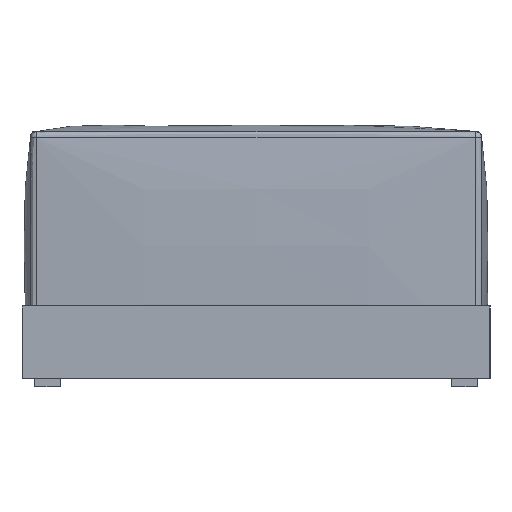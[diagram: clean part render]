
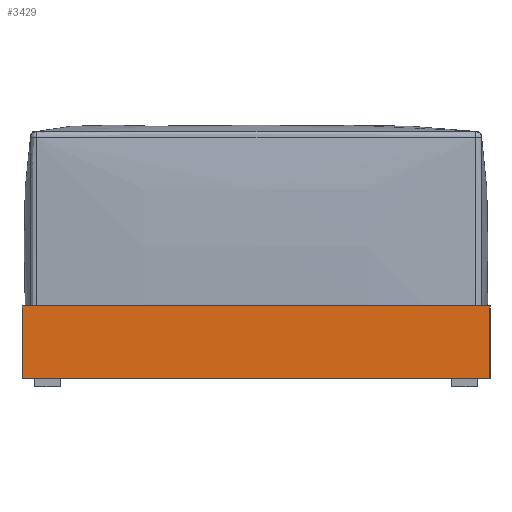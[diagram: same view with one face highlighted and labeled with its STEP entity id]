
A CAD part, left-side view. The second image highlights one B-rep face of the part: STEP entity #3429.
In plain terms, the highlighted planar face has unit normal (-1, 0, 0).
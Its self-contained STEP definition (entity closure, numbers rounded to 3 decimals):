
#121=PLANE('',#3843);
#257=LINE('',#14663,#477);
#258=LINE('',#14665,#478);
#259=LINE('',#14667,#479);
#260=LINE('',#14668,#480);
#477=VECTOR('',#4469,10.);
#478=VECTOR('',#4470,10.);
#479=VECTOR('',#4471,10.);
#480=VECTOR('',#4472,10.);
#1021=FACE_OUTER_BOUND('',#1273,.T.);
#1273=EDGE_LOOP('',(#2877,#2878,#2879,#2880));
#1661=VERTEX_POINT('',#14661);
#1662=VERTEX_POINT('',#14662);
#1663=VERTEX_POINT('',#14664);
#1664=VERTEX_POINT('',#14666);
#2085=EDGE_CURVE('',#1661,#1662,#257,.T.);
#2086=EDGE_CURVE('',#1661,#1663,#258,.T.);
#2087=EDGE_CURVE('',#1664,#1663,#259,.T.);
#2088=EDGE_CURVE('',#1662,#1664,#260,.T.);
#2877=ORIENTED_EDGE('',*,*,#2085,.F.);
#2878=ORIENTED_EDGE('',*,*,#2086,.T.);
#2879=ORIENTED_EDGE('',*,*,#2087,.F.);
#2880=ORIENTED_EDGE('',*,*,#2088,.F.);
#3429=ADVANCED_FACE('',(#1021),#121,.T.);
#3843=AXIS2_PLACEMENT_3D('',#14660,#4467,#4468);
#4467=DIRECTION('center_axis',(-1.,0.,0.));
#4468=DIRECTION('ref_axis',(0.,-1.,0.));
#4469=DIRECTION('',(0.,1.,0.));
#4470=DIRECTION('',(0.,0.,1.));
#4471=DIRECTION('',(0.,-1.,0.));
#4472=DIRECTION('',(0.,0.,1.));
#14660=CARTESIAN_POINT('Origin',(-1200.,550.,0.));
#14661=CARTESIAN_POINT('',(-1200.,-550.,0.));
#14662=CARTESIAN_POINT('',(-1200.,550.,0.));
#14663=CARTESIAN_POINT('',(-1200.,-550.,0.));
#14664=CARTESIAN_POINT('',(-1200.,-550.,170.));
#14665=CARTESIAN_POINT('',(-1200.,-550.,0.));
#14666=CARTESIAN_POINT('',(-1200.,550.,170.));
#14667=CARTESIAN_POINT('',(-1200.,-550.,170.));
#14668=CARTESIAN_POINT('',(-1200.,550.,0.));
